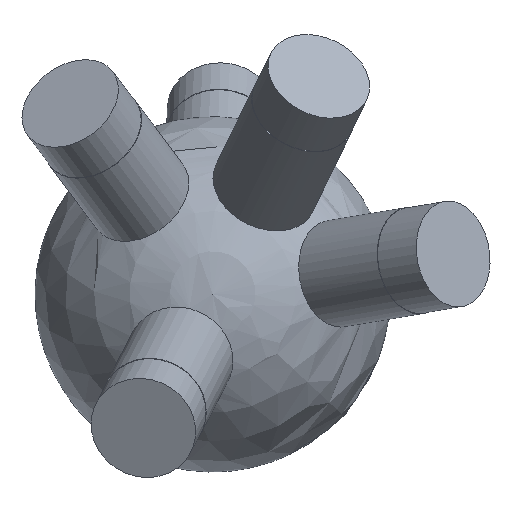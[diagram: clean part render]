
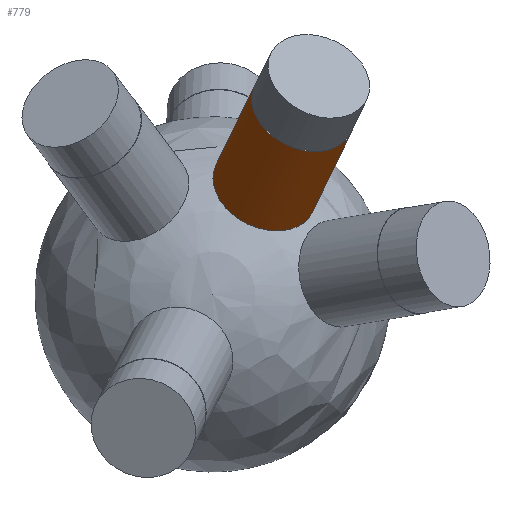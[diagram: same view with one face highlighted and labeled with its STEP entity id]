
A CAD part, top view. The second image highlights one B-rep face of the part: STEP entity #779.
In plain terms, the highlighted cylindrical face has radius 6 mm (diameter 12 mm), a full revolution.
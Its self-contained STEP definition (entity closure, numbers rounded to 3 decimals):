
#33 = SPHERICAL_SURFACE('',#34,20.);
#34 = AXIS2_PLACEMENT_3D('',#35,#36,#37);
#35 = CARTESIAN_POINT('',(0.,0.,0.));
#36 = DIRECTION('',(0.,0.,1.));
#37 = DIRECTION('',(1.,0.,-0.));
#335 = EDGE_CURVE('',#336,#336,#338,.T.);
#336 = VERTEX_POINT('',#337);
#337 = CARTESIAN_POINT('',(5.749,16.353,9.977
    ));
#338 = SURFACE_CURVE('',#339,(#344,#413),.PCURVE_S1.);
#339 = CIRCLE('',#340,6.);
#340 = AXIS2_PLACEMENT_3D('',#341,#342,#343);
#341 = CARTESIAN_POINT('',(5.749,11.781,
    13.862));
#342 = DIRECTION('',(0.301,0.617,0.727));
#343 = DIRECTION('',(0.,-0.762,0.648)
  );
#344 = PCURVE('',#33,#345);
#345 = DEFINITIONAL_REPRESENTATION('',(#346),#412);
#346 = B_SPLINE_CURVE_WITH_KNOTS('',8,(#347,#348,#349,#350,#351,#352,
    #353,#354,#355,#356,#357,#358,#359,#360,#361,#362,#363,#364,#365,
    #366,#367,#368,#369,#370,#371,#372,#373,#374,#375,#376,#377,#378,
    #379,#380,#381,#382,#383,#384,#385,#386,#387,#388,#389,#390,#391,
    #392,#393,#394,#395,#396,#397,#398,#399,#400,#401,#402,#403,#404,
    #405,#406,#407,#408,#409,#410,#411),.UNSPECIFIED.,.F.,.F.,(9,7,7,7,7
    ,7,7,7,7,9),(3.142,3.927,4.614,
    5.216,5.742,6.202,6.605,
    7.31,8.367,9.425),.UNSPECIFIED.);
#347 = CARTESIAN_POINT('',(1.233,0.522));
#348 = CARTESIAN_POINT('',(1.265,0.53));
#349 = CARTESIAN_POINT('',(1.298,0.54));
#350 = CARTESIAN_POINT('',(1.329,0.553));
#351 = CARTESIAN_POINT('',(1.359,0.568));
#352 = CARTESIAN_POINT('',(1.388,0.586));
#353 = CARTESIAN_POINT('',(1.415,0.605));
#354 = CARTESIAN_POINT('',(1.44,0.626));
#355 = CARTESIAN_POINT('',(1.484,0.669));
#356 = CARTESIAN_POINT('',(1.503,0.691));
#357 = CARTESIAN_POINT('',(1.519,0.713));
#358 = CARTESIAN_POINT('',(1.534,0.737));
#359 = CARTESIAN_POINT('',(1.547,0.761));
#360 = CARTESIAN_POINT('',(1.556,0.786));
#361 = CARTESIAN_POINT('',(1.563,0.811));
#362 = CARTESIAN_POINT('',(1.57,0.859));
#363 = CARTESIAN_POINT('',(1.57,0.882));
#364 = CARTESIAN_POINT('',(1.568,0.905));
#365 = CARTESIAN_POINT('',(1.562,0.927));
#366 = CARTESIAN_POINT('',(1.553,0.949));
#367 = CARTESIAN_POINT('',(1.54,0.971));
#368 = CARTESIAN_POINT('',(1.523,0.991));
#369 = CARTESIAN_POINT('',(1.482,1.028));
#370 = CARTESIAN_POINT('',(1.46,1.044));
#371 = CARTESIAN_POINT('',(1.434,1.059));
#372 = CARTESIAN_POINT('',(1.404,1.072));
#373 = CARTESIAN_POINT('',(1.37,1.084));
#374 = CARTESIAN_POINT('',(1.333,1.094));
#375 = CARTESIAN_POINT('',(1.293,1.103));
#376 = CARTESIAN_POINT('',(1.214,1.114));
#377 = CARTESIAN_POINT('',(1.176,1.118));
#378 = CARTESIAN_POINT('',(1.136,1.12));
#379 = CARTESIAN_POINT('',(1.096,1.12));
#380 = CARTESIAN_POINT('',(1.057,1.118));
#381 = CARTESIAN_POINT('',(1.018,1.114));
#382 = CARTESIAN_POINT('',(0.981,1.109));
#383 = CARTESIAN_POINT('',(0.914,1.097));
#384 = CARTESIAN_POINT('',(0.885,1.089));
#385 = CARTESIAN_POINT('',(0.858,1.081));
#386 = CARTESIAN_POINT('',(0.832,1.072));
#387 = CARTESIAN_POINT('',(0.809,1.062));
#388 = CARTESIAN_POINT('',(0.788,1.051));
#389 = CARTESIAN_POINT('',(0.769,1.039));
#390 = CARTESIAN_POINT('',(0.723,1.005));
#391 = CARTESIAN_POINT('',(0.7,0.982));
#392 = CARTESIAN_POINT('',(0.683,0.957));
#393 = CARTESIAN_POINT('',(0.671,0.931));
#394 = CARTESIAN_POINT('',(0.665,0.905));
#395 = CARTESIAN_POINT('',(0.662,0.878));
#396 = CARTESIAN_POINT('',(0.664,0.852));
#397 = CARTESIAN_POINT('',(0.676,0.786));
#398 = CARTESIAN_POINT('',(0.691,0.747));
#399 = CARTESIAN_POINT('',(0.712,0.71));
#400 = CARTESIAN_POINT('',(0.739,0.675));
#401 = CARTESIAN_POINT('',(0.769,0.643));
#402 = CARTESIAN_POINT('',(0.804,0.614));
#403 = CARTESIAN_POINT('',(0.841,0.589));
#404 = CARTESIAN_POINT('',(0.921,0.546));
#405 = CARTESIAN_POINT('',(0.963,0.529));
#406 = CARTESIAN_POINT('',(1.007,0.516));
#407 = CARTESIAN_POINT('',(1.052,0.508));
#408 = CARTESIAN_POINT('',(1.098,0.505));
#409 = CARTESIAN_POINT('',(1.143,0.506));
#410 = CARTESIAN_POINT('',(1.189,0.512));
#411 = CARTESIAN_POINT('',(1.233,0.522));
#412 = ( GEOMETRIC_REPRESENTATION_CONTEXT(2) 
PARAMETRIC_REPRESENTATION_CONTEXT() REPRESENTATION_CONTEXT('2D SPACE',''
  ) );
#413 = PCURVE('',#414,#419);
#414 = CYLINDRICAL_SURFACE('',#415,6.);
#415 = AXIS2_PLACEMENT_3D('',#416,#417,#418);
#416 = CARTESIAN_POINT('',(0.,0.,0.));
#417 = DIRECTION('',(0.301,0.617,0.727));
#418 = DIRECTION('',(0.,0.762,-0.648)
  );
#419 = DEFINITIONAL_REPRESENTATION('',(#420),#424);
#420 = LINE('',#421,#422);
#421 = CARTESIAN_POINT('',(-3.142,19.079));
#422 = VECTOR('',#423,1.);
#423 = DIRECTION('',(1.,0.));
#424 = ( GEOMETRIC_REPRESENTATION_CONTEXT(2) 
PARAMETRIC_REPRESENTATION_CONTEXT() REPRESENTATION_CONTEXT('2D SPACE',''
  ) );
#779 = ADVANCED_FACE('',(#780),#414,.T.);
#780 = FACE_BOUND('',#781,.T.);
#781 = EDGE_LOOP('',(#782,#805,#832,#833));
#782 = ORIENTED_EDGE('',*,*,#783,.T.);
#783 = EDGE_CURVE('',#336,#784,#786,.T.);
#784 = VERTEX_POINT('',#785);
#785 = CARTESIAN_POINT('',(10.058,25.182,
    20.367));
#786 = SEAM_CURVE('',#787,(#791,#798),.PCURVE_S1.);
#787 = LINE('',#788,#789);
#788 = CARTESIAN_POINT('',(0.,4.572,
    -3.885));
#789 = VECTOR('',#790,1.);
#790 = DIRECTION('',(0.301,0.617,0.727));
#791 = PCURVE('',#414,#792);
#792 = DEFINITIONAL_REPRESENTATION('',(#793),#797);
#793 = LINE('',#794,#795);
#794 = CARTESIAN_POINT('',(6.283,-0.));
#795 = VECTOR('',#796,1.);
#796 = DIRECTION('',(0.,1.));
#797 = ( GEOMETRIC_REPRESENTATION_CONTEXT(2) 
PARAMETRIC_REPRESENTATION_CONTEXT() REPRESENTATION_CONTEXT('2D SPACE',''
  ) );
#798 = PCURVE('',#414,#799);
#799 = DEFINITIONAL_REPRESENTATION('',(#800),#804);
#800 = LINE('',#801,#802);
#801 = CARTESIAN_POINT('',(0.,-0.));
#802 = VECTOR('',#803,1.);
#803 = DIRECTION('',(0.,1.));
#804 = ( GEOMETRIC_REPRESENTATION_CONTEXT(2) 
PARAMETRIC_REPRESENTATION_CONTEXT() REPRESENTATION_CONTEXT('2D SPACE',''
  ) );
#805 = ORIENTED_EDGE('',*,*,#806,.F.);
#806 = EDGE_CURVE('',#784,#784,#807,.T.);
#807 = SURFACE_CURVE('',#808,(#813,#820),.PCURVE_S1.);
#808 = CIRCLE('',#809,6.);
#809 = AXIS2_PLACEMENT_3D('',#810,#811,#812);
#810 = CARTESIAN_POINT('',(10.058,20.61,
    24.252));
#811 = DIRECTION('',(0.301,0.617,0.727));
#812 = DIRECTION('',(0.,0.762,-0.648)
  );
#813 = PCURVE('',#414,#814);
#814 = DEFINITIONAL_REPRESENTATION('',(#815),#819);
#815 = LINE('',#816,#817);
#816 = CARTESIAN_POINT('',(0.,33.378));
#817 = VECTOR('',#818,1.);
#818 = DIRECTION('',(1.,0.));
#819 = ( GEOMETRIC_REPRESENTATION_CONTEXT(2) 
PARAMETRIC_REPRESENTATION_CONTEXT() REPRESENTATION_CONTEXT('2D SPACE',''
  ) );
#820 = PCURVE('',#821,#826);
#821 = PLANE('',#822);
#822 = AXIS2_PLACEMENT_3D('',#823,#824,#825);
#823 = CARTESIAN_POINT('',(10.058,20.61,
    24.252));
#824 = DIRECTION('',(0.301,0.617,0.727));
#825 = DIRECTION('',(0.,0.762,-0.648)
  );
#826 = DEFINITIONAL_REPRESENTATION('',(#827),#831);
#827 = CIRCLE('',#828,6.);
#828 = AXIS2_PLACEMENT_2D('',#829,#830);
#829 = CARTESIAN_POINT('',(0.,0.));
#830 = DIRECTION('',(1.,0.));
#831 = ( GEOMETRIC_REPRESENTATION_CONTEXT(2) 
PARAMETRIC_REPRESENTATION_CONTEXT() REPRESENTATION_CONTEXT('2D SPACE',''
  ) );
#832 = ORIENTED_EDGE('',*,*,#783,.F.);
#833 = ORIENTED_EDGE('',*,*,#335,.T.);
